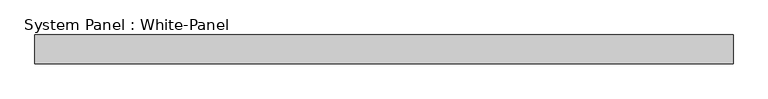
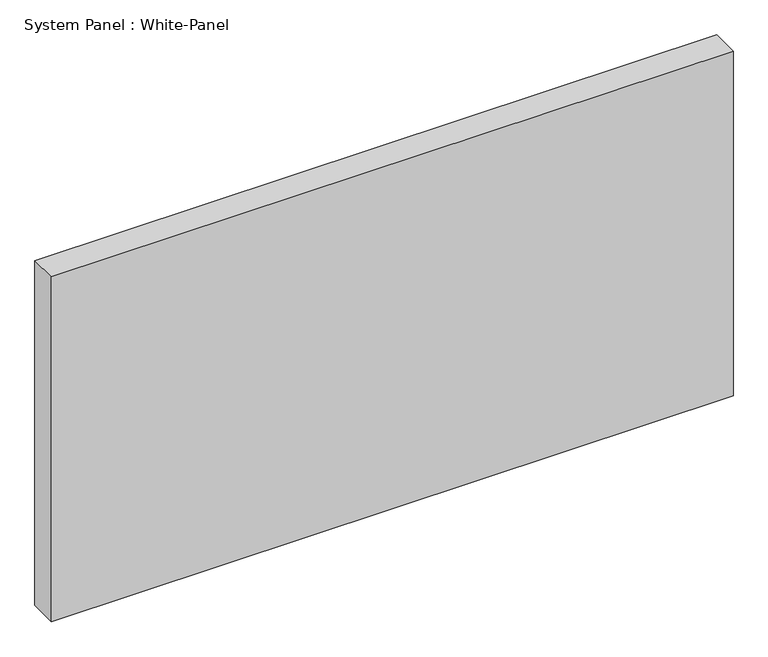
"""IFC4 building model written with IfcOpenShell, lengths in millimetres: plate geometry, System Panel : White-Panel."""

from ifc_helpers import new_model, si_unit, origin, origin_with_axes, place, context, project, spatial, polyline, outline, extrude, source, transform, mapped, element, save


def system_panel_white_panel_659cbcf8(model_context):
    return source(origin(), model_context, "Body", "SweptSolid", [
        extrude(outline(polyline([(725.0, -10.5), (-725.0, -10.5), (-725.0, 49.5), (725.0, 49.5), (725.0, -10.5)])), origin_with_axes(), (0.0, 0.0, 1.0), 775.0),
    ])


if __name__ == "__main__":
    model = new_model("IFC4")
    model_context = context("Model", 3, world=origin())
    ifc_project = project(units=[si_unit("LENGTHUNIT", "METRE", prefix="MILLI")], contexts=[model_context])
    site = spatial("IfcSite", under=ifc_project)
    building = spatial("IfcBuilding", under=site)
    placement = place(None, origin())
    system_panel_white_panel_shape = system_panel_white_panel_659cbcf8(model_context)
    element("IfcPlate", 1, ObjectType="System Panel : White-Panel", at=placement, inside=building, context=model_context, shape_type="MappedRepresentation", body=[
        mapped(system_panel_white_panel_shape, transform((0.0, 0.0, 0.0), x_axis=(1.0, 0.0, 0.0), y_axis=(0.0, 1.0, 0.0), z_axis=(0.0, 0.0, 1.0))),
    ])
    save(model, "model.ifc")
